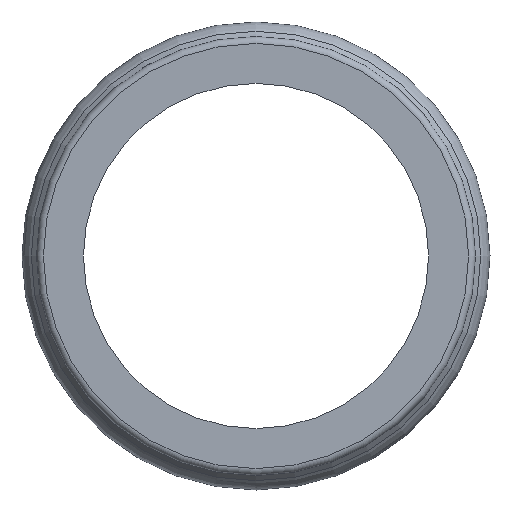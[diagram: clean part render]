
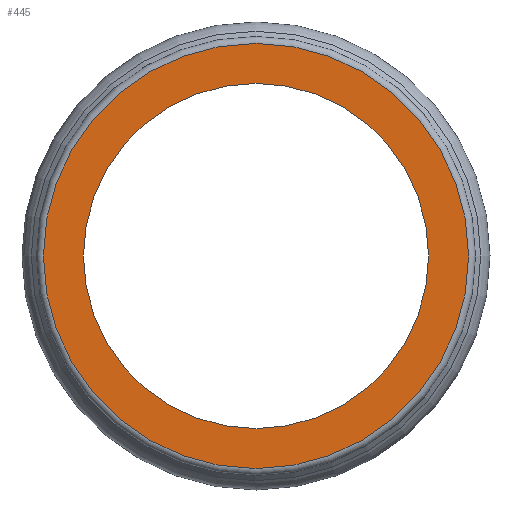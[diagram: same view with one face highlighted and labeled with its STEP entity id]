
A CAD part, left-side view. The second image highlights one B-rep face of the part: STEP entity #445.
In plain terms, the highlighted planar face has unit normal (-1, 0, 0).
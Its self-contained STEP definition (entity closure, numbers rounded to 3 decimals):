
#30=PLANE('',#505);
#46=CIRCLE('',#506,308.);
#47=CIRCLE('',#507,250.);
#100=ORIENTED_EDGE('',*,*,#183,.T.);
#101=ORIENTED_EDGE('',*,*,#184,.F.);
#183=EDGE_CURVE('',#225,#225,#46,.F.);
#184=EDGE_CURVE('',#226,#226,#47,.T.);
#225=VERTEX_POINT('',#936);
#226=VERTEX_POINT('',#938);
#280=EDGE_LOOP('',(#100));
#281=EDGE_LOOP('',(#101));
#364=FACE_BOUND('',#280,.T.);
#365=FACE_BOUND('',#281,.T.);
#445=ADVANCED_FACE('',(#364,#365),#30,.F.);
#505=AXIS2_PLACEMENT_3D('',#934,#583,#584);
#506=AXIS2_PLACEMENT_3D('',#935,#585,#586);
#507=AXIS2_PLACEMENT_3D('',#937,#587,#588);
#583=DIRECTION('',(1.,0.,0.));
#584=DIRECTION('',(0.,0.,-1.));
#585=DIRECTION('',(1.,0.,0.));
#586=DIRECTION('',(0.,0.,-1.));
#587=DIRECTION('',(-1.,0.,0.));
#588=DIRECTION('',(0.,0.,1.));
#934=CARTESIAN_POINT('',(-225.,0.,250.));
#935=CARTESIAN_POINT('',(-225.,0.,0.));
#936=CARTESIAN_POINT('',(-225.,0.,-308.));
#937=CARTESIAN_POINT('',(-225.,0.,0.));
#938=CARTESIAN_POINT('',(-225.,0.,250.));
